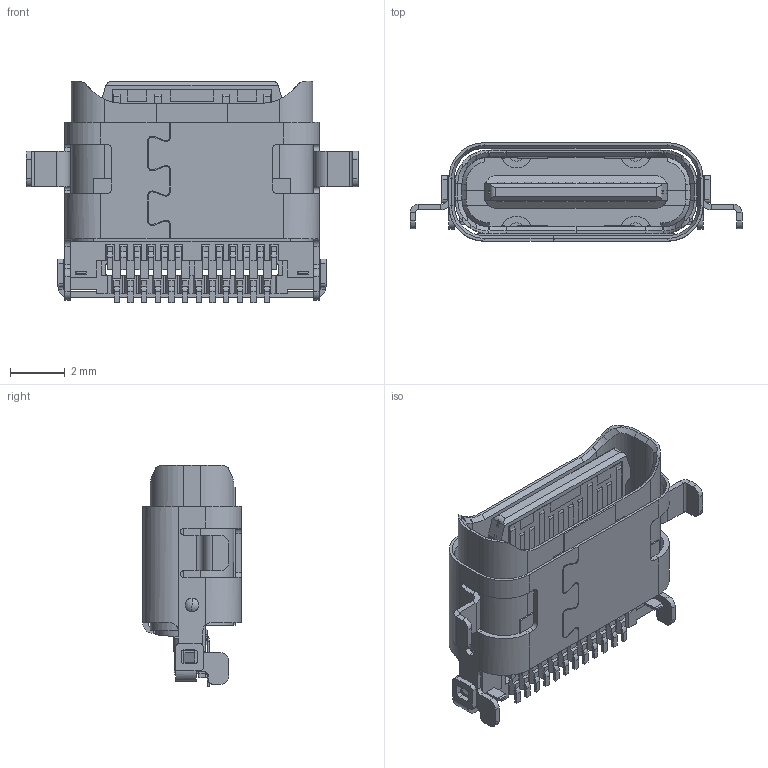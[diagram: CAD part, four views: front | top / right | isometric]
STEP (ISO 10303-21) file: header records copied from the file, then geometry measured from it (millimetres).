
FILE_DESCRIPTION (( 'STEP AP203' ), '1' );
FILE_NAME ('GT-USB-7027A.STEP', '2023-09-19T11:11:14', ( '' ), ( '' ), 'SwSTEP 2.0', 'SolidWorks 2023', '' );
FILE_SCHEMA (( 'CONFIG_CONTROL_DESIGN' ));
Length unit declared in the file: millimetre
Products named in the file (62): ASM0010_AF0_ASM.stp; PRT0075.stp; PRT0087.stp; ASM0014_ASM.stp; PRT0113.stp; PRT0078.stp; PRT0090.stp; PRT0112.stp; PRT0066.stp; PRT0114.stp; PRT0102.stp; ASM0012_ASM.stp; PRT0084.stp; PRT0076.stp; ASM0015_ASM.stp; PRT0083.stp; PRT0069.stp; PRT0110.stp; PRT0100.stp; PRT0072.stp; PRT0098.stp; PRT0082.stp; PRT0111.stp; PRT0077.stp; PRT0071.stp; PRT0085.stp; PRT0079.stp; PRT0116.stp; PRT0073.stp; PRT0101.stp; ASM0011_ASM.stp; PRT0086.stp; PRT0119.stp; GT-USB-7027A.stp; PRT0092.stp; PRT0091.stp; PRT0103.stp; PRT0097.stp; PRT0099.stp; PRT0107.stp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
Assembly tree (63 placements, depth 6):
  GT-USB-7027A
    GT-USB-7027A.stp
      ASM0010_AF0_ASM.stp
        ASM0011_ASM.stp
          ASM0012_ASM.stp
            PRT0067.stp
            PRT0068.stp
          ASM0013_ASM.stp
            PRT0069.stp
            PRT0070.stp
            PRT0071.stp
            PRT0072.stp
            PRT0073.stp
            PRT0074.stp
            PRT0075.stp
            PRT0076.stp
            PRT0077.stp
            PRT0078.stp
            PRT0079.stp
            PRT0080.stp
            PRT0081.stp
            PRT0082.stp
            PRT0083.stp
            PRT0084.stp
            PRT0085.stp
            PRT0086.stp
            PRT0087.stp
            PRT0088.stp
            PRT0089.stp
            PRT0090.stp
            PRT0091.stp
            PRT0092.stp
          PRT0066.stp
        ASM0014_ASM.stp
          ASM0015_ASM.stp
            PRT0094.stp
            PRT0095.stp
            PRT0096.stp
            PRT0097.stp
            PRT0098.stp
            PRT0099.stp
            PRT0100.stp
            PRT0101.stp
            PRT0102.stp
            PRT0103.stp
            PRT0104.stp
            PRT0105.stp
            PRT0106.stp
            PRT0107.stp
            PRT0108.stp
            PRT0109.stp
            PRT0110.stp
            PRT0111.stp
            PRT0112.stp
            PRT0113.stp
            PRT0114.stp
            PRT0115.stp  x3
          PRT0093.stp
        PRT0116.stp
        PRT0117_AF0.stp
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Bounding box: 12.14 x 3.6 x 8.09 mm (x, y, z)
Volume: 55.9 mm3; surface area: 1005.9 mm2
Topology: 53 solids, 62 shells, 3502 faces, 9176 edges, 5757 vertices
Faces by surface type: plane 2735, cylinder 721, cone 26, bspline 12, sphere 8
Entity records: 116383 total; most frequent: CARTESIAN_POINT 33034, ORIENTED_EDGE 17964, DIRECTION 12526, EDGE_CURVE 9080, VERTEX_POINT 5705, B_SPLINE_CURVE_WITH_KNOTS 4464, AXIS2_PLACEMENT_3D 4390, VECTOR 3746
